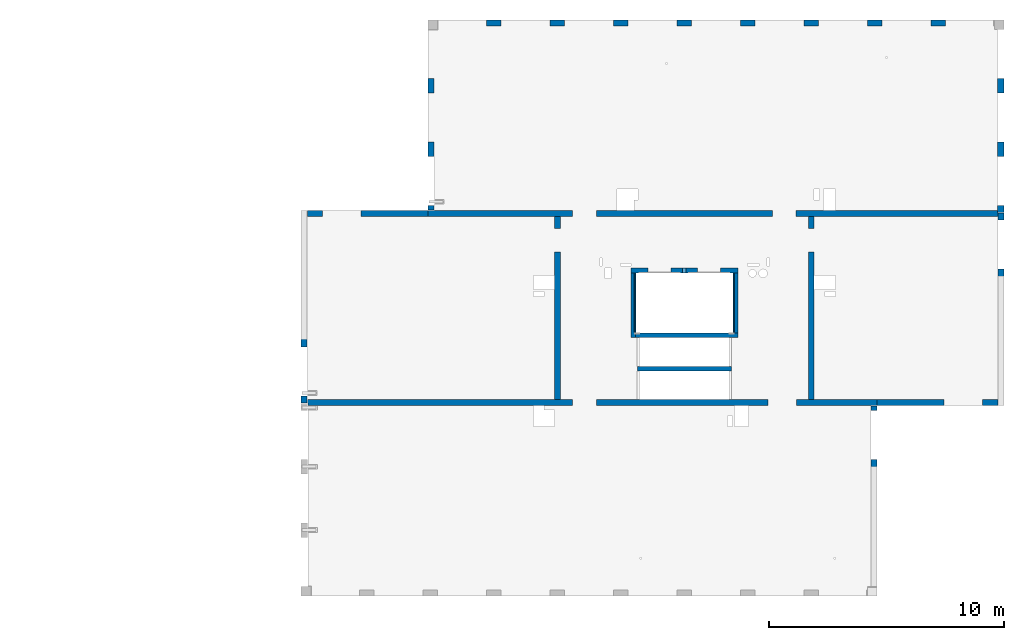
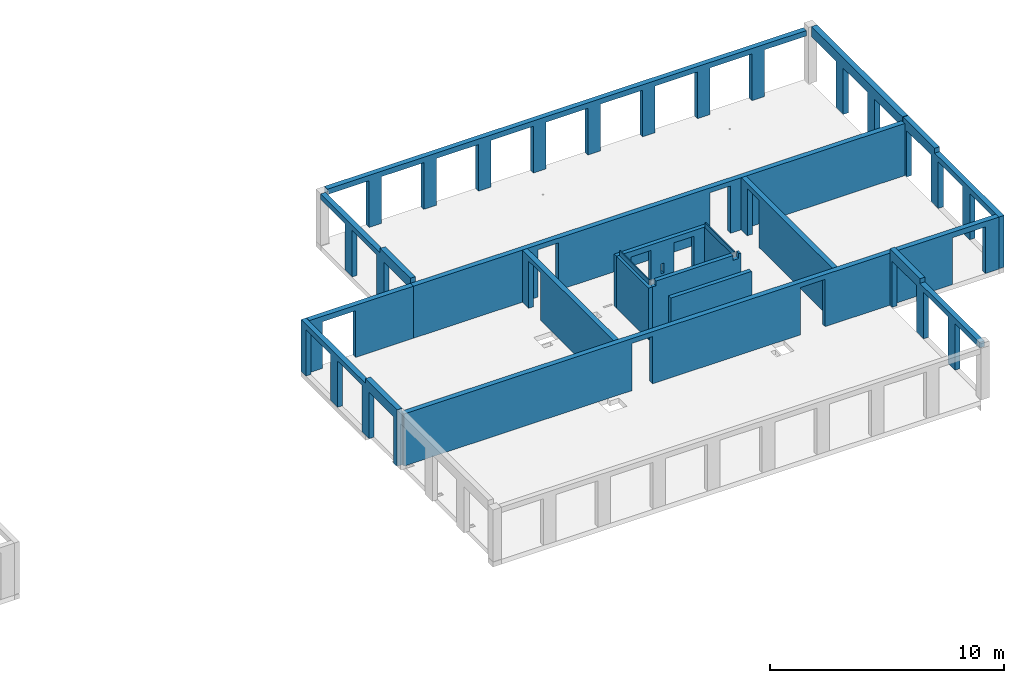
# One storey, part 4 of 8: 19 walls, 42 openings.
"""IFC2X3 building model written with IfcOpenShell, lengths in millimetres."""

import ifcopenshell
import ifcopenshell.guid

model = None  # the IFC model being written
_history = None  # IfcOwnerHistory: only IFC2X3 demands one
_inside = {}  # id of a spatial element -> (the spatial element, [elements in it])
_under = {}  # id of a project, library or spatial element -> (it, [spatial elements below it])
_declared = {}  # id of a project -> (the project, [libraries it declares])
_typed = {}  # id of a type object -> (the type object, [elements of that type])
_made_of = {}  # id of a material, layer set ... -> (it, [elements and type objects made of it])


def new_model(schema):
    """Start an empty IFC model of exactly this schema.

    Asked for "IFC4X3", IfcOpenShell would pick the latest addendum, in which some entities
    have other attributes; the version numbers below select the first issue.
    IFC2X3 requires an IfcOwnerHistory on every rooted entity: one is made here for all.
    """
    global model, _history
    if schema == "IFC4X3":
        model = ifcopenshell.file(schema_version=(4, 3, 0, 0))
    else:
        model = ifcopenshell.file(schema=schema)
    _inside.clear()
    _under.clear()
    _declared.clear()
    _typed.clear()
    _made_of.clear()
    _history = None
    if model.schema == "IFC2X3":
        org = make("IfcOrganization", Name="unknown")
        user = make(
            "IfcPersonAndOrganization",
            ThePerson=make("IfcPerson", FamilyName="unknown"),
            TheOrganization=org,
        )
        app = make(
            "IfcApplication",
            ApplicationDeveloper=org,
            Version="unknown",
            ApplicationFullName="unknown",
            ApplicationIdentifier="unknown",
        )
        _history = make(
            "IfcOwnerHistory",
            OwningUser=user,
            OwningApplication=app,
            ChangeAction="ADDED",
            CreationDate=0,
        )
    return model


def make(cls, **values):
    """One entity of the class cls with the attributes given. An attribute that is None is left unset."""
    return model.create_entity(
        cls, **{name: value for name, value in values.items() if value is not None}
    )


def entity(cls, *values):
    """Any entity or typed value of the class cls, its attributes in the order of the schema. None: left unset."""
    e = model.create_entity(cls)
    for i, value in enumerate(values):
        if value is not None:
            e[i] = value
    return e


def rooted(cls, **values):
    """An entity with a GlobalId (a new one), such as an element, a storey or a relation."""
    return make(cls, GlobalId=ifcopenshell.guid.new(), OwnerHistory=_history, **values)


def si_unit(unit_type, name, prefix=None):
    """IfcSIUnit, for example si_unit("LENGTHUNIT", "METRE", prefix="MILLI")."""
    return make("IfcSIUnit", UnitType=unit_type, Prefix=prefix, Name=name)


def converted_unit(unit_type, name, factor, base, dimensions=None, offset=None):
    """IfcConversionBasedUnit, such as the inch: factor (a typed value) times the base unit."""
    return make(
        "IfcConversionBasedUnit"
        if offset is None
        else "IfcConversionBasedUnitWithOffset",
        ConversionOffset=offset,
        Dimensions=None
        if dimensions is None
        else entity("IfcDimensionalExponents", *dimensions),
        UnitType=unit_type,
        Name=name,
        ConversionFactor=make(
            "IfcMeasureWithUnit", ValueComponent=factor, UnitComponent=base
        ),
    )


def derived_unit(unit_type, elements):
    """IfcDerivedUnit: a product of units, each with its exponent."""
    return make(
        "IfcDerivedUnit",
        Elements=[
            make("IfcDerivedUnitElement", Unit=unit, Exponent=power)
            for unit, power in elements
        ],
        UnitType=unit_type,
    )


def assignment(units):
    """IfcUnitAssignment: the units of a project."""
    return None if units is None else make("IfcUnitAssignment", Units=units)


def point(xyz):
    """IfcCartesianPoint."""
    return None if xyz is None else make("IfcCartesianPoint", Coordinates=xyz)


def direction(xyz):
    """IfcDirection."""
    return None if xyz is None else make("IfcDirection", DirectionRatios=xyz)


def frame(location, z_axis=None, x_axis=None):
    """IfcAxis2Placement3D, a coordinate frame: its origin and axes. An axis left out is left unset."""
    return make(
        "IfcAxis2Placement3D",
        Location=point(location),
        Axis=direction(z_axis),
        RefDirection=direction(x_axis),
    )


def frame_2d(location, x_axis=None):
    """IfcAxis2Placement2D, a coordinate frame in the plane: its origin and x axis."""
    return make(
        "IfcAxis2Placement2D", Location=point(location), RefDirection=direction(x_axis)
    )


def origin():
    """The frame at (0, 0, 0) with its axes left unset."""
    return frame((0.0, 0.0, 0.0))


def place(relative_to, where):
    """IfcLocalPlacement: puts the frame where relative to a parent placement (None: the world)."""
    return make(
        "IfcLocalPlacement", PlacementRelTo=relative_to, RelativePlacement=where
    )


def context(
    kind, dimensions, precision=None, world=None, true_north=None, identifier=None
):
    """IfcGeometricRepresentationContext, for example the 3D "Model" context."""
    return make(
        "IfcGeometricRepresentationContext",
        ContextIdentifier=identifier,
        ContextType=kind,
        CoordinateSpaceDimension=dimensions,
        Precision=precision,
        WorldCoordinateSystem=world,
        TrueNorth=true_north,
    )


def subcontext(parent, identifier, kind, view, scale=None):
    """IfcGeometricRepresentationSubContext, for example "Body" below "Model"."""
    return make(
        "IfcGeometricRepresentationSubContext",
        ContextIdentifier=identifier,
        ContextType=kind,
        ParentContext=parent,
        TargetScale=scale,
        TargetView=view,
    )


def project(units=None, contexts=None):
    """IfcProject with its units and contexts."""
    return rooted(
        "IfcProject",
        Name="project",
        RepresentationContexts=contexts,
        UnitsInContext=assignment(units),
    )


def spatial(cls, under=None, at=None, **own):
    """A site, building, storey or space (cls), placed at a placement, below another one or the project."""
    s = rooted(cls, ObjectPlacement=at, **own)
    if under is not None:
        _under.setdefault(under.id(), (under, []))[1].append(s)
    return s


def profile(cls, at=None, kind="AREA", **sizes):
    """A parametric profile (cls). Its sizes go by their IFC names, for example OverallWidth=200.0."""
    return make(cls, ProfileType=kind, Position=at, **sizes)


def rectangle(**sizes):
    """IfcRectangleProfileDef."""
    return profile("IfcRectangleProfileDef", **sizes)


def extrude(swept, where, along, depth):
    """IfcExtrudedAreaSolid: the profile swept, set in the frame where, extruded along a direction by depth."""
    return make(
        "IfcExtrudedAreaSolid",
        SweptArea=swept,
        Position=where,
        ExtrudedDirection=direction(along),
        Depth=depth,
    )


def shape(context_of_items, identifier, shape_type, items):
    """IfcShapeRepresentation: the items that make up one representation, for example the "Body"."""
    return make(
        "IfcShapeRepresentation",
        ContextOfItems=context_of_items,
        RepresentationIdentifier=identifier,
        RepresentationType=shape_type,
        Items=items,
    )


def material(Name=None, Category=None):
    """IfcMaterial."""
    return make("IfcMaterial", Name=Name, Category=Category)


def layer(
    of_material, thickness, ventilated=None, Name=None, Category=None, Priority=None
):
    """IfcMaterialLayer: one layer of a wall or slab, of a material (None: an air gap)."""
    return make(
        "IfcMaterialLayer",
        Material=of_material,
        LayerThickness=thickness,
        IsVentilated=ventilated,
        Name=Name,
        Category=Category,
        Priority=Priority,
    )


def layer_set(layers, Name=None):
    """IfcMaterialLayerSet."""
    return make("IfcMaterialLayerSet", MaterialLayers=layers, LayerSetName=Name)


def layer_usage(for_layer_set, set_direction, sense, offset, extent=None):
    """IfcMaterialLayerSetUsage: how a layer set lies in its element."""
    return make(
        "IfcMaterialLayerSetUsage",
        ForLayerSet=for_layer_set,
        LayerSetDirection=set_direction,
        DirectionSense=sense,
        OffsetFromReferenceLine=offset,
        ReferenceExtent=extent,
    )


def made_of(thing, what):
    """Note that an element or type object is made of a material, layer set ...; save() writes the relation."""
    if what is not None:
        _made_of.setdefault(what.id(), (what, []))[1].append(thing)
    return thing


def type_object(cls, material=None, **own):
    """A type object (cls), such as IfcWallType, which elements share."""
    return made_of(rooted(cls, **own), material)


def element(
    cls,
    number,
    at=None,
    inside=None,
    cuts=None,
    type_object=None,
    material=None,
    context=None,
    identifier="Body",
    shape_type=None,
    held_by="IfcProductDefinitionShape",
    body=None,
    shapes=None,
    **own,
):
    """One element of the class cls, such as IfcWall. Its Tag is "e" and its number.

    at: its placement. inside: the storey or other place that contains it. cuts: it is an
    opening in that element (IfcRelVoidsElement). A single representation is given by context,
    identifier, shape_type and body (its items); several are given by shapes. held_by: the class
    of the entity that holds the representations. save() writes the other relations.
    """
    e = rooted(cls, Tag="e%d" % number, ObjectPlacement=at, **own)
    if body is not None:
        shapes = [shape(context, identifier, shape_type, body)]
    if shapes is not None:
        e.Representation = make(held_by, Representations=shapes)
    if inside is not None:
        _inside.setdefault(inside.id(), (inside, []))[1].append(e)
    if cuts is not None:
        rooted(
            "IfcRelVoidsElement", RelatingBuildingElement=cuts, RelatedOpeningElement=e
        )
    if type_object is not None:
        _typed.setdefault(type_object.id(), (type_object, []))[1].append(e)
    return made_of(e, material)


def aggregate(whole, parts):
    """IfcRelAggregates: a whole, such as a stair, and the parts it consists of."""
    return rooted("IfcRelAggregates", RelatingObject=whole, RelatedObjects=parts)


def save(model, path):
    """Write the relations noted so far, then the file.

    IfcRelAggregates (storeys below a building ...), IfcRelContainedInSpatialStructure (elements
    in a storey), IfcRelDefinesByType, IfcRelAssociatesMaterial and IfcRelDeclares: one each for
    every whole, place, type object, material and project.
    """
    for whole, parts in _under.values():
        aggregate(whole, parts)
    for where, things in _inside.values():
        rooted(
            "IfcRelContainedInSpatialStructure",
            RelatedElements=things,
            RelatingStructure=where,
        )
    for kind, things in _typed.values():
        rooted("IfcRelDefinesByType", RelatedObjects=things, RelatingType=kind)
    for what, things in _made_of.values():
        rooted("IfcRelAssociatesMaterial", RelatedObjects=things, RelatingMaterial=what)
    for by, libraries in _declared.values():
        rooted("IfcRelDeclares", RelatingContext=by, RelatedDefinitions=libraries)
    model.write(path)


model = new_model("IFC2X3")

# Units and contexts
model_context = context("Model", 3, precision=0.01, world=origin(), true_north=direction((6.12303176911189e-17, 1.0)))
body_context = subcontext(model_context, "Body", "Model", "MODEL_VIEW")
ifc_project = project(units=[si_unit("LENGTHUNIT", "METRE", prefix="MILLI"), si_unit("AREAUNIT", "SQUARE_METRE"), si_unit("VOLUMEUNIT", "CUBIC_METRE"), converted_unit("PLANEANGLEUNIT", "DEGREE", entity("IfcRatioMeasure", 0.0174532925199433), si_unit("PLANEANGLEUNIT", "RADIAN"), dimensions=[0, 0, 0, 0, 0, 0, 0]), si_unit("MASSUNIT", "GRAM", prefix="KILO"), derived_unit("MASSDENSITYUNIT", [(si_unit("MASSUNIT", "GRAM", prefix="KILO"), 1), (si_unit("LENGTHUNIT", "METRE"), -3)]), si_unit("TIMEUNIT", "SECOND"), si_unit("FREQUENCYUNIT", "HERTZ"), si_unit("THERMODYNAMICTEMPERATUREUNIT", "DEGREE_CELSIUS"), derived_unit("THERMALTRANSMITTANCEUNIT", [(si_unit("MASSUNIT", "GRAM", prefix="KILO"), 1), (si_unit("THERMODYNAMICTEMPERATUREUNIT", "KELVIN"), -1), (si_unit("TIMEUNIT", "SECOND"), -3)]), derived_unit("VOLUMETRICFLOWRATEUNIT", [(si_unit("LENGTHUNIT", "METRE"), 3), (si_unit("TIMEUNIT", "SECOND"), -1)]), si_unit("ELECTRICCURRENTUNIT", "AMPERE"), si_unit("ELECTRICVOLTAGEUNIT", "VOLT"), si_unit("POWERUNIT", "WATT"), si_unit("FORCEUNIT", "NEWTON", prefix="KILO"), si_unit("ILLUMINANCEUNIT", "LUX"), si_unit("LUMINOUSFLUXUNIT", "LUMEN"), si_unit("LUMINOUSINTENSITYUNIT", "CANDELA"), derived_unit("USERDEFINED", [(si_unit("MASSUNIT", "GRAM", prefix="KILO"), -1), (si_unit("LENGTHUNIT", "METRE"), -2), (si_unit("TIMEUNIT", "SECOND"), 3), (si_unit("LUMINOUSFLUXUNIT", "LUMEN"), 1)]), derived_unit("LINEARVELOCITYUNIT", [(si_unit("LENGTHUNIT", "METRE"), 1), (si_unit("TIMEUNIT", "SECOND"), -1)]), si_unit("PRESSUREUNIT", "PASCAL"), derived_unit("USERDEFINED", [(si_unit("LENGTHUNIT", "METRE"), -2), (si_unit("MASSUNIT", "GRAM", prefix="KILO"), 1), (si_unit("TIMEUNIT", "SECOND"), -2)])], contexts=[model_context])

# Site, building, storey
site_placement = place(None, origin())
site = spatial("IfcSite", under=ifc_project, at=site_placement, Name="Default", CompositionType="ELEMENT")
building_placement = place(site_placement, origin())
building = spatial("IfcBuilding", under=site, at=building_placement, Name="niet gebruiken", CompositionType="ELEMENT")
storey_placement = place(building_placement, frame((0.0, 0.0, 42300.0)))
storey = spatial("IfcBuildingStorey", under=building, at=storey_placement, Name="14 veertiende verdieping", CompositionType="ELEMENT", Elevation=42300.0)

# Wall, openings
ifc_material_1 = material(Name="NLRS_f2_beton ihwg")
ifc_layer_1 = layer(ifc_material_1, 250.0)
ifc_layer_set_1 = layer_set([ifc_layer_1], Name="Basic Wall:NLRS_22.21_WA_beton ihwg d=250_gen")
ifc_layer_usage_1 = layer_usage(ifc_layer_set_1, "AXIS2", "NEGATIVE", 125.0)
wall_type_1 = type_object("IfcWallType", Name="Basic Wall:NLRS_22.21_WA_beton ihwg d=250_gen", PredefinedType="STANDARD", material=ifc_layer_set_1)
wall_1_placement = place(storey_placement, frame((75770.0, 36981.0, -90.0)))
wall_1 = element("IfcWallStandardCase", 1, at=wall_1_placement, inside=storey, type_object=wall_type_1, material=ifc_layer_usage_1, Name="Basic Wall:NLRS_22.21_WA_beton ihwg d=250_gen", ObjectType="Basic Wall:NLRS_22.21_WA_beton ihwg d=250_gen", context=body_context, shape_type="SweptSolid", body=[
    extrude(rectangle(XDim=24230.0000000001, YDim=250.000000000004, at=frame_2d((12115.0, 0.0), x_axis=(-1.0, 0.0))), origin(), (0.0, 0.0, 1.0), 2719.99999999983),
])
opening_1_placement = place(wall_1_placement, origin())
element("IfcOpeningElement", 2, at=opening_1_placement, cuts=wall_1, Name="Basic Wall:NLRS_22.21_WA_beton ihwg d=250_gen", ObjectType="Opening", context=body_context, shape_type="SweptSolid", body=[
    extrude(rectangle(XDim=2470.0, YDim=1225.0, at=frame_2d((-8.69704308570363e-12, -4.43378667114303e-12), x_axis=(0.0, 1.0))), frame((20192.5000000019, -1399.0, 1235.0), z_axis=(0.0, 1.0, 0.0), x_axis=(-1.0, 0.0, 0.0)), (0.0, 0.0, 1.0), 3048.0),
])
opening_2_placement = place(wall_1_placement, origin())
element("IfcOpeningElement", 3, at=opening_2_placement, cuts=wall_1, Name="Basic Wall:NLRS_22.21_WA_beton ihwg d=250_gen", ObjectType="Opening", context=body_context, shape_type="SweptSolid", body=[
    extrude(rectangle(XDim=2470.0, YDim=1006.0, at=frame_2d((8.66862137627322e-12, 4.43378667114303e-12), x_axis=(0.0, 1.0))), frame((11782.0, -1399.0, 1235.0), z_axis=(0.0, 1.0, 0.0), x_axis=(-1.0, 0.0, 0.0)), (0.0, 0.0, 1.0), 3048.0),
])
opening_3_placement = place(wall_1_placement, origin())
element("IfcOpeningElement", 4, at=opening_3_placement, cuts=wall_1, Name="Basic Wall:NLRS_22.21_WA_beton ihwg d=250_gen", ObjectType="Recess", context=body_context, shape_type="SweptSolid", body=[
    extrude(rectangle(XDim=55000.0, YDim=19.9999999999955, at=frame_2d((0.0, 4.33164615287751e-12), x_axis=(1.0, 0.0))), frame((10.0, -140.0, -2200.0), z_axis=(0.0, 1.0, 0.0), x_axis=(0.0, 0.0, -1.0)), (0.0, 0.0, 1.0), 124.999999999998),
])

# Wall, opening
ifc_layer_usage_2 = layer_usage(ifc_layer_set_1, "AXIS2", "NEGATIVE", 125.0)
wall_2_placement = place(storey_placement, frame((75770.0, 45031.0, -90.0)))
wall_2 = element("IfcWallStandardCase", 5, at=wall_2_placement, inside=storey, type_object=wall_type_1, material=ifc_layer_usage_2, Name="Basic Wall:NLRS_22.21_WA_beton ihwg d=250_gen", ObjectType="Basic Wall:NLRS_22.21_WA_beton ihwg d=250_gen", context=body_context, shape_type="SweptSolid", body=[
    extrude(rectangle(XDim=5130.0, YDim=249.999999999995, at=frame_2d((2565.0, 0.0), x_axis=(-1.0, 0.0))), origin(), (0.0, 0.0, 1.0), 2719.99999999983),
])
opening_4_placement = place(wall_2_placement, origin())
element("IfcOpeningElement", 6, at=opening_4_placement, cuts=wall_2, Name="Basic Wall:NLRS_22.21_WA_beton ihwg d=250_gen", ObjectType="Opening", context=body_context, shape_type="SweptSolid", body=[
    extrude(rectangle(XDim=2440.0, YDim=1640.0, at=frame_2d((0.0, 4.37694325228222e-12), x_axis=(1.0, 0.0))), frame((1460.0, -1649.0, 1220.0), z_axis=(0.0, 1.0, 0.0), x_axis=(0.0, 0.0, 1.0)), (0.0, 0.0, 1.0), 3048.0),
])

ifc_layer_usage_3 = layer_usage(ifc_layer_set_1, "AXIS2", "NEGATIVE", 125.0)
wall_3_placement = place(storey_placement, frame((86400.0, 44906.0, -90.0), z_axis=(0.0, 0.0, 1.0), x_axis=(0.0, -1.0, 0.0)))
wall_3 = element("IfcWallStandardCase", 7, at=wall_3_placement, inside=storey, type_object=wall_type_1, material=ifc_layer_usage_3, Name="Basic Wall:NLRS_22.21_WA_beton ihwg d=250_gen", ObjectType="Basic Wall:NLRS_22.21_WA_beton ihwg d=250_gen", context=body_context, shape_type="SweptSolid", body=[
    extrude(rectangle(XDim=7799.99999999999, YDim=250.000000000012, at=frame_2d((3900.0, 0.0), x_axis=(-1.0, 0.0))), origin(), (0.0, 0.0, 1.0), 2719.99999999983),
])
opening_5_placement = place(wall_3_placement, origin())
element("IfcOpeningElement", 8, at=opening_5_placement, cuts=wall_3, Name="Basic Wall:NLRS_22.21_WA_beton ihwg d=250_gen", ObjectType="Opening", context=body_context, shape_type="SweptSolid", body=[
    extrude(rectangle(XDim=2470.0, YDim=1006.0, at=frame_2d((-4.43378667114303e-12, 0.0), x_axis=(1.0, 0.0))), frame((1027.0, -1649.0, 1235.0), z_axis=(0.0, 1.0, 0.0), x_axis=(0.0, 0.0, 1.0)), (0.0, 0.0, 1.0), 3048.0),
])

ifc_layer_usage_4 = layer_usage(ifc_layer_set_1, "AXIS2", "NEGATIVE", 125.0)
wall_4_placement = place(storey_placement, frame((97200.0, 44906.0, -90.0), z_axis=(0.0, 0.0, 1.0), x_axis=(0.0, -1.0, 0.0)))
wall_4 = element("IfcWallStandardCase", 9, at=wall_4_placement, inside=storey, type_object=wall_type_1, material=ifc_layer_usage_4, Name="Basic Wall:NLRS_22.21_WA_beton ihwg d=250_gen", ObjectType="Basic Wall:NLRS_22.21_WA_beton ihwg d=250_gen", context=body_context, shape_type="SweptSolid", body=[
    extrude(rectangle(XDim=7799.99999999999, YDim=250.000000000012, at=frame_2d((3900.0, 0.0), x_axis=(-1.0, 0.0))), origin(), (0.0, 0.0, 1.0), 2719.99999999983),
])
opening_6_placement = place(wall_4_placement, origin())
element("IfcOpeningElement", 10, at=opening_6_placement, cuts=wall_4, Name="Basic Wall:NLRS_22.21_WA_beton ihwg d=250_gen", ObjectType="Opening", context=body_context, shape_type="SweptSolid", body=[
    extrude(rectangle(XDim=2470.0, YDim=1006.0, at=frame_2d((4.43378667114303e-12, 0.0), x_axis=(1.0, 0.0))), frame((1027.0, -1649.0, 1235.0), z_axis=(0.0, 1.0, 0.0), x_axis=(0.0, 0.0, 1.0)), (0.0, 0.0, 1.0), 3048.0),
])

# Wall, openings
ifc_layer_usage_5 = layer_usage(ifc_layer_set_1, "AXIS2", "NEGATIVE", 125.0)
wall_5_placement = place(storey_placement, frame((80900.0, 45031.0, -90.0)))
wall_5 = element("IfcWallStandardCase", 11, at=wall_5_placement, inside=storey, type_object=wall_type_1, material=ifc_layer_usage_5, Name="Basic Wall:NLRS_22.21_WA_beton ihwg d=250_gen", ObjectType="Basic Wall:NLRS_22.21_WA_beton ihwg d=250_gen", context=body_context, shape_type="SweptSolid", body=[
    extrude(rectangle(XDim=24250.0, YDim=249.999999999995, at=frame_2d((12125.0, 0.0), x_axis=(-1.0, 0.0))), origin(), (0.0, 0.0, 1.0), 2719.99999999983),
])
opening_7_placement = place(wall_5_placement, origin())
element("IfcOpeningElement", 12, at=opening_7_placement, cuts=wall_5, Name="Basic Wall:NLRS_22.21_WA_beton ihwg d=250_gen", ObjectType="Opening", context=body_context, shape_type="SweptSolid", body=[
    extrude(rectangle(XDim=2470.0, YDim=1006.0, at=frame_2d((4.43378667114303e-12, 8.66862137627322e-12), x_axis=(1.0, 0.0))), frame((15148.0, -1649.0, 1235.0), z_axis=(0.0, 1.0, 0.0), x_axis=(0.0, 0.0, 1.0)), (0.0, 0.0, 1.0), 3048.0),
])
opening_8_placement = place(wall_5_placement, origin())
element("IfcOpeningElement", 13, at=opening_8_placement, cuts=wall_5, Name="Basic Wall:NLRS_22.21_WA_beton ihwg d=250_gen", ObjectType="Opening", context=body_context, shape_type="SweptSolid", body=[
    extrude(rectangle(XDim=2470.0, YDim=1006.0, at=frame_2d((-4.43378667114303e-12, 8.66862137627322e-12), x_axis=(1.0, 0.0))), frame((6652.0, -1649.0, 1235.0), z_axis=(0.0, 1.0, 0.0), x_axis=(0.0, 0.0, 1.0)), (0.0, 0.0, 1.0), 3048.0),
])

# Wall, opening
ifc_layer_usage_6 = layer_usage(ifc_layer_set_1, "AXIS2", "NEGATIVE", 125.0)
wall_6_placement = place(storey_placement, frame((100000.0, 36981.0, -90.0)))
wall_6 = element("IfcWallStandardCase", 14, at=wall_6_placement, inside=storey, type_object=wall_type_1, material=ifc_layer_usage_6, Name="Basic Wall:NLRS_22.21_WA_beton ihwg d=250_gen", ObjectType="Basic Wall:NLRS_22.21_WA_beton ihwg d=250_gen", context=body_context, shape_type="SweptSolid", body=[
    extrude(rectangle(XDim=5149.99999999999, YDim=250.000000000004, at=frame_2d((2575.0, 0.0), x_axis=(-1.0, 0.0))), origin(), (0.0, 0.0, 1.0), 2719.99999999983),
])
opening_9_placement = place(wall_6_placement, origin())
element("IfcOpeningElement", 15, at=opening_9_placement, cuts=wall_6, Name="Basic Wall:NLRS_22.21_WA_beton ihwg d=250_gen", ObjectType="Opening", context=body_context, shape_type="SweptSolid", body=[
    extrude(rectangle(XDim=2440.0, YDim=1639.99999999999, at=frame_2d((-8.69704308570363e-12, 0.0), x_axis=(0.0, 1.0))), frame((3670.0, -1399.0, 1220.0), z_axis=(0.0, 1.0, 0.0), x_axis=(-1.0, 0.0, 0.0)), (0.0, 0.0, 1.0), 3048.0),
])

# Wall, openings
ifc_material_2 = material(Name="NLRS_f2_beton prefab")
ifc_layer_2 = layer(ifc_material_2, 250.0)
ifc_layer_set_2 = layer_set([ifc_layer_2], Name="Basic Wall:NLRS_21.21_WA_beton prefab d=250_gen")
ifc_layer_usage_7 = layer_usage(ifc_layer_set_2, "AXIS2", "NEGATIVE", 125.0)
wall_type_2 = type_object("IfcWallType", Name="Basic Wall:NLRS_21.21_WA_beton prefab d=250_gen", PredefinedType="STANDARD", material=ifc_layer_set_2)
wall_7_placement = place(storey_placement, frame((75625.0, 45156.0, -70.0), z_axis=(0.0, 0.0, 1.0), x_axis=(0.0, -1.0, 0.0)))
wall_7 = element("IfcWallStandardCase", 16, at=wall_7_placement, inside=storey, type_object=wall_type_2, material=ifc_layer_usage_7, Name="Basic Wall:NLRS_21.21_WA_beton prefab d=250_gen", ObjectType="Basic Wall:NLRS_21.21_WA_beton prefab d=250_gen", context=body_context, shape_type="SweptSolid", body=[
    extrude(rectangle(XDim=8189.99999999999, YDim=249.999999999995, at=frame_2d((4095.0, 0.0), x_axis=(-1.0, 0.0))), origin(), (0.0, 0.0, 1.0), 2949.99999999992),
])
opening_10_placement = place(wall_7_placement, origin())
element("IfcOpeningElement", 17, at=opening_10_placement, cuts=wall_7, Name="Basic Wall:NLRS_21.21_WA_beton prefab d=250_gen", ObjectType="Opening", context=body_context, shape_type="SweptSolid", body=[
    extrude(rectangle(XDim=2420.0, YDim=2080.0, at=frame_2d((0.0, 0.0), x_axis=(0.0, 1.0))), frame((1450.0, -1399.0, 1210.0), z_axis=(0.0, 1.0, 0.0), x_axis=(-1.0, 0.0, 0.0)), (0.0, 0.0, 1.0), 3048.0),
])
opening_11_placement = place(wall_7_placement, origin())
element("IfcOpeningElement", 18, at=opening_11_placement, cuts=wall_7, Name="Basic Wall:NLRS_21.21_WA_beton prefab d=250_gen", ObjectType="Opening", context=body_context, shape_type="SweptSolid", body=[
    extrude(rectangle(XDim=2420.0, YDim=2080.0, at=frame_2d((0.0, 0.0), x_axis=(0.0, 1.0))), frame((4150.0, -1399.0, 1210.0), z_axis=(0.0, 1.0, 0.0), x_axis=(-1.0, 0.0, 0.0)), (0.0, 0.0, 1.0), 3048.0),
])
opening_12_placement = place(wall_7_placement, origin())
element("IfcOpeningElement", 19, at=opening_12_placement, cuts=wall_7, Name="Basic Wall:NLRS_21.21_WA_beton prefab d=250_gen", ObjectType="Opening", context=body_context, shape_type="SweptSolid", body=[
    extrude(rectangle(XDim=2420.0, YDim=2080.0, at=frame_2d((0.0, 0.0), x_axis=(0.0, 1.0))), frame((6850.0, -1399.0, 1210.0), z_axis=(0.0, 1.0, 0.0), x_axis=(-1.0, 0.0, 0.0)), (0.0, 0.0, 1.0), 3048.0),
])
opening_13_placement = place(wall_7_placement, origin())
element("IfcOpeningElement", 20, at=opening_13_placement, cuts=wall_7, Name="Basic Wall:NLRS_21.21_WA_beton prefab d=250_gen", ObjectType="Opening", context=body_context, shape_type="SweptSolid", body=[
    extrude(rectangle(XDim=250.000000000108, YDim=5499.99999999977, at=frame_2d((0.0, 4.32720526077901e-12), x_axis=(0.0, 1.0))), frame((2750.0, 125.0, 2825.0), z_axis=(0.0, -1.0, 0.0), x_axis=(-1.0, 0.0, 0.0)), (0.0, 0.0, 1.0), 250.0),
])

ifc_layer_usage_8 = layer_usage(ifc_layer_set_2, "AXIS2", "NEGATIVE", 125.0)
wall_8_placement = place(storey_placement, frame((81025.0, 52846.0, -70.0), z_axis=(0.0, 0.0, 1.0), x_axis=(0.0, -1.0, 0.0)))
wall_8 = element("IfcWallStandardCase", 21, at=wall_8_placement, inside=storey, type_object=wall_type_2, material=ifc_layer_usage_8, Name="Basic Wall:NLRS_21.21_WA_beton prefab d=250_gen", ObjectType="Basic Wall:NLRS_21.21_WA_beton prefab d=250_gen", context=body_context, shape_type="SweptSolid", body=[
    extrude(rectangle(XDim=7670.00000000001, YDim=250.000000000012, at=frame_2d((3835.0, 0.0), x_axis=(-1.0, 0.0))), origin(), (0.0, 0.0, 1.0), 2949.99999999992),
])
opening_14_placement = place(wall_8_placement, origin())
element("IfcOpeningElement", 22, at=opening_14_placement, cuts=wall_8, Name="Basic Wall:NLRS_21.21_WA_beton prefab d=250_gen", ObjectType="Opening", context=body_context, shape_type="SweptSolid", body=[
    extrude(rectangle(XDim=2420.0, YDim=2080.0, at=frame_2d((0.0, 0.0), x_axis=(0.0, 1.0))), frame((1040.0, -1399.0, 1210.0), z_axis=(0.0, 1.0, 0.0), x_axis=(-1.0, 0.0, 0.0)), (0.0, 0.0, 1.0), 3048.0),
])
opening_15_placement = place(wall_8_placement, origin())
element("IfcOpeningElement", 23, at=opening_15_placement, cuts=wall_8, Name="Basic Wall:NLRS_21.21_WA_beton prefab d=250_gen", ObjectType="Opening", context=body_context, shape_type="SweptSolid", body=[
    extrude(rectangle(XDim=2420.0, YDim=2080.0, at=frame_2d((0.0, 0.0), x_axis=(0.0, 1.0))), frame((3740.0, -1399.0, 1210.0), z_axis=(0.0, 1.0, 0.0), x_axis=(-1.0, 0.0, 0.0)), (0.0, 0.0, 1.0), 3048.0),
])
opening_16_placement = place(wall_8_placement, origin())
element("IfcOpeningElement", 24, at=opening_16_placement, cuts=wall_8, Name="Basic Wall:NLRS_21.21_WA_beton prefab d=250_gen", ObjectType="Opening", context=body_context, shape_type="SweptSolid", body=[
    extrude(rectangle(XDim=2420.0, YDim=2080.0, at=frame_2d((0.0, 0.0), x_axis=(0.0, 1.0))), frame((6440.0, -1399.0, 1210.0), z_axis=(0.0, 1.0, 0.0), x_axis=(-1.0, 0.0, 0.0)), (0.0, 0.0, 1.0), 3048.0),
])
opening_17_placement = place(wall_8_placement, origin())
element("IfcOpeningElement", 25, at=opening_17_placement, cuts=wall_8, Name="Basic Wall:NLRS_21.21_WA_beton prefab d=250_gen", ObjectType="Opening", context=body_context, shape_type="SweptSolid", body=[
    extrude(rectangle(XDim=250.000000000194, YDim=5089.99999999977, at=frame_2d((4.32009983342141e-12, -4.32720526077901e-12), x_axis=(0.0, 1.0))), frame((2545.0, 125.0, 2825.0), z_axis=(0.0, -1.0, 0.0), x_axis=(-1.0, 0.0, 0.0)), (0.0, 0.0, 1.0), 250.0),
])

ifc_layer_usage_9 = layer_usage(ifc_layer_set_2, "AXIS2", "NEGATIVE", 125.0)
wall_9_placement = place(storey_placement, frame((105275.0, 45046.0, -70.0), z_axis=(0.0, 0.0, 1.0), x_axis=(0.0, -1.0, 0.0)))
wall_9 = element("IfcWallStandardCase", 26, at=wall_9_placement, inside=storey, type_object=wall_type_2, material=ifc_layer_usage_9, Name="Basic Wall:NLRS_21.21_WA_beton prefab d=250_gen", ObjectType="Basic Wall:NLRS_21.21_WA_beton prefab d=250_gen", context=body_context, shape_type="SweptSolid", body=[
    extrude(rectangle(XDim=8189.99999999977, YDim=250.000000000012, at=frame_2d((4094.99999999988, 0.0), x_axis=(-1.0, 0.0))), origin(), (0.0, 0.0, 1.0), 2949.99999999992),
])
opening_18_placement = place(wall_9_placement, origin())
element("IfcOpeningElement", 27, at=opening_18_placement, cuts=wall_9, Name="Basic Wall:NLRS_21.21_WA_beton prefab d=250_gen", ObjectType="Opening", context=body_context, shape_type="SweptSolid", body=[
    extrude(rectangle(XDim=2420.0, YDim=2080.0, at=frame_2d((0.0, 0.0), x_axis=(0.0, 1.0))), frame((1340.0, -1399.0, 1210.0), z_axis=(0.0, 1.0, 0.0), x_axis=(-1.0, 0.0, 0.0)), (0.0, 0.0, 1.0), 3048.0),
])
opening_19_placement = place(wall_9_placement, origin())
element("IfcOpeningElement", 28, at=opening_19_placement, cuts=wall_9, Name="Basic Wall:NLRS_21.21_WA_beton prefab d=250_gen", ObjectType="Opening", context=body_context, shape_type="SweptSolid", body=[
    extrude(rectangle(XDim=2420.0, YDim=2080.0, at=frame_2d((0.0, 0.0), x_axis=(0.0, 1.0))), frame((4040.0, -1399.0, 1210.0), z_axis=(0.0, 1.0, 0.0), x_axis=(-1.0, 0.0, 0.0)), (0.0, 0.0, 1.0), 3048.0),
])
opening_20_placement = place(wall_9_placement, origin())
element("IfcOpeningElement", 29, at=opening_20_placement, cuts=wall_9, Name="Basic Wall:NLRS_21.21_WA_beton prefab d=250_gen", ObjectType="Opening", context=body_context, shape_type="SweptSolid", body=[
    extrude(rectangle(XDim=2420.0, YDim=2080.0, at=frame_2d((0.0, 0.0), x_axis=(0.0, 1.0))), frame((6740.0, -1399.0, 1210.0), z_axis=(0.0, 1.0, 0.0), x_axis=(-1.0, 0.0, 0.0)), (0.0, 0.0, 1.0), 3048.0),
])
opening_21_placement = place(wall_9_placement, origin())
element("IfcOpeningElement", 30, at=opening_21_placement, cuts=wall_9, Name="Basic Wall:NLRS_21.21_WA_beton prefab d=250_gen", ObjectType="Opening", context=body_context, shape_type="SweptSolid", body=[
    extrude(rectangle(XDim=249.999999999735, YDim=5500.0000000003, at=frame_2d((0.0, 4.32009983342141e-12), x_axis=(1.0, 0.0))), frame((5440.0, 125.0, 2825.0), z_axis=(0.0, -1.0, 0.0), x_axis=(0.0, 0.0, 1.0)), (0.0, 0.0, 1.0), 250.0),
])

ifc_layer_usage_10 = layer_usage(ifc_layer_set_2, "AXIS2", "NEGATIVE", 125.0)
wall_10_placement = place(storey_placement, frame((99875.0, 29166.0, -70.0), z_axis=(0.0, 0.0, 1.0), x_axis=(0.0, 1.0, 0.0)))
wall_10 = element("IfcWallStandardCase", 31, at=wall_10_placement, inside=storey, type_object=wall_type_2, material=ifc_layer_usage_10, Name="Basic Wall:NLRS_21.21_WA_beton prefab d=250_gen", ObjectType="Basic Wall:NLRS_21.21_WA_beton prefab d=250_gen", context=body_context, shape_type="SweptSolid", body=[
    extrude(rectangle(XDim=7669.99999999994, YDim=250.000000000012, at=frame_2d((3834.99999999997, 0.0), x_axis=(-1.0, 0.0))), origin(), (0.0, 0.0, 1.0), 2949.99999999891),
])
opening_22_placement = place(wall_10_placement, origin())
element("IfcOpeningElement", 32, at=opening_22_placement, cuts=wall_10, Name="Basic Wall:NLRS_21.21_WA_beton prefab d=250_gen", ObjectType="Opening", context=body_context, shape_type="SweptSolid", body=[
    extrude(rectangle(XDim=2420.0, YDim=2080.0, at=frame_2d((-2.1600499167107e-12, 0.0), x_axis=(0.0, 1.0))), frame((1040.0, -1399.0, 1210.0), z_axis=(0.0, 1.0, 0.0), x_axis=(-1.0, 0.0, 0.0)), (0.0, 0.0, 1.0), 3048.0),
])
opening_23_placement = place(wall_10_placement, origin())
element("IfcOpeningElement", 33, at=opening_23_placement, cuts=wall_10, Name="Basic Wall:NLRS_21.21_WA_beton prefab d=250_gen", ObjectType="Opening", context=body_context, shape_type="SweptSolid", body=[
    extrude(rectangle(XDim=2420.0, YDim=2080.0, at=frame_2d((2.1600499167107e-12, 0.0), x_axis=(0.0, 1.0))), frame((6440.0, -1399.0, 1210.0), z_axis=(0.0, 1.0, 0.0), x_axis=(-1.0, 0.0, 0.0)), (0.0, 0.0, 1.0), 3048.0),
])
opening_24_placement = place(wall_10_placement, origin())
element("IfcOpeningElement", 34, at=opening_24_placement, cuts=wall_10, Name="Basic Wall:NLRS_21.21_WA_beton prefab d=250_gen", ObjectType="Opening", context=body_context, shape_type="SweptSolid", body=[
    extrude(rectangle(XDim=2420.0, YDim=2080.0, at=frame_2d((2.1600499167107e-12, 0.0), x_axis=(0.0, 1.0))), frame((3740.0, -1399.0, 1210.0), z_axis=(0.0, 1.0, 0.0), x_axis=(-1.0, 0.0, 0.0)), (0.0, 0.0, 1.0), 3048.0),
])
opening_25_placement = place(wall_10_placement, origin())
element("IfcOpeningElement", 35, at=opening_25_placement, cuts=wall_10, Name="Basic Wall:NLRS_21.21_WA_beton prefab d=250_gen", ObjectType="Opening", context=body_context, shape_type="SweptSolid", body=[
    extrude(rectangle(XDim=249.999999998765, YDim=5090.00000000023, at=frame_2d((0.0, 0.0), x_axis=(0.0, 1.0))), frame((2545.0, 125.0, 2825.0), z_axis=(0.0, -1.0, 0.0), x_axis=(-1.0, 0.0, 0.0)), (0.0, 0.0, 1.0), 250.0),
])

# Wall
ifc_layer_3 = layer(ifc_material_2, 200.0)
ifc_layer_set_3 = layer_set([ifc_layer_3], Name="Basic Wall:NLRS_21.21_WA_beton prefab d=200_gen")
ifc_layer_usage_11 = layer_usage(ifc_layer_set_3, "AXIS2", "NEGATIVE", 100.0)
wall_type_3 = type_object("IfcWallType", Name="Basic Wall:NLRS_21.21_WA_beton prefab d=200_gen", PredefinedType="STANDARD", material=ifc_layer_set_3)
wall_11_placement = place(storey_placement, frame((89800.0, 38426.0, -70.0)))
element("IfcWallStandardCase", 36, at=wall_11_placement, inside=storey, type_object=wall_type_3, material=ifc_layer_usage_11, Name="Basic Wall:NLRS_21.21_WA_beton prefab d=200_gen", ObjectType="Basic Wall:NLRS_21.21_WA_beton prefab d=200_gen", context=body_context, shape_type="SweptSolid", body=[
    extrude(rectangle(XDim=3999.99999999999, YDim=199.999999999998, at=frame_2d((2000.0, 0.0), x_axis=(-1.0, 0.0))), origin(), (0.0, 0.0, 1.0), 2950.00000000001),
])

# Wall, openings
ifc_layer_4 = layer(ifc_material_2, 200.0)
ifc_layer_set_4 = layer_set([ifc_layer_4], Name="Basic Wall:NLRS_22.21_WA_beton prefab d=200_gen")
ifc_layer_usage_12 = layer_usage(ifc_layer_set_4, "AXIS2", "NEGATIVE", 100.0)
wall_type_4 = type_object("IfcWallType", Name="Basic Wall:NLRS_22.21_WA_beton prefab d=200_gen", PredefinedType="STANDARD", material=ifc_layer_set_4)
wall_12_placement = place(storey_placement, frame((89525.0, 42596.0, -70.0)))
wall_12 = element("IfcWallStandardCase", 37, at=wall_12_placement, inside=storey, type_object=wall_type_4, material=ifc_layer_usage_12, Name="Basic Wall:NLRS_22.21_WA_beton prefab d=200_gen", ObjectType="Basic Wall:NLRS_22.21_WA_beton prefab d=200_gen", context=body_context, shape_type="SweptSolid", body=[
    extrude(rectangle(XDim=4550.00000000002, YDim=200.000000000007, at=frame_2d((2275.00000000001, 7.8159700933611e-13), x_axis=(-1.0, 0.0))), origin(), (0.0, 0.0, 1.0), 2700.00000000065),
])
opening_26_placement = place(wall_12_placement, origin())
element("IfcOpeningElement", 38, at=opening_26_placement, cuts=wall_12, Name="Basic Wall:NLRS_22.21_WA_beton prefab d=200_gen", ObjectType="Opening", context=body_context, shape_type="SweptSolid", body=[
    extrude(rectangle(XDim=2430.0, YDim=980.000000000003, at=frame_2d((0.0, -8.66862137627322e-12), x_axis=(1.0, 0.0))), frame((1219.99984910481, -1624.0, 1195.0), z_axis=(0.0, 1.0, 0.0), x_axis=(0.0, 0.0, 1.0)), (0.0, 0.0, 1.0), 3048.0),
])
opening_27_placement = place(wall_12_placement, origin())
element("IfcOpeningElement", 39, at=opening_27_placement, cuts=wall_12, Name="Basic Wall:NLRS_22.21_WA_beton prefab d=200_gen", ObjectType="Opening", context=body_context, shape_type="SweptSolid", body=[
    extrude(rectangle(XDim=2430.0, YDim=980.000000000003, at=frame_2d((0.0, -8.66862137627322e-12), x_axis=(1.0, 0.0))), frame((3329.99984910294, -1624.0, 1195.0), z_axis=(0.0, 1.0, 0.0), x_axis=(0.0, 0.0, 1.0)), (0.0, 0.0, 1.0), 3048.0),
])
opening_28_placement = place(wall_12_placement, origin())
element("IfcOpeningElement", 40, at=opening_28_placement, cuts=wall_12, Name="Basic Wall:NLRS_22.21_WA_beton prefab d=200_gen", ObjectType="Opening", context=body_context, shape_type="SweptSolid", body=[
    extrude(rectangle(XDim=505.000000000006, YDim=135.000000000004, at=frame_2d((-4.33431068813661e-12, -8.66151594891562e-12), x_axis=(1.0, 0.0))), frame((2275.0, -1624.0, 1272.49999999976), z_axis=(0.0, 1.0, 0.0), x_axis=(0.0, 0.0, 1.0)), (0.0, 0.0, 1.0), 3048.0),
])

# Wall
ifc_layer_usage_13 = layer_usage(ifc_layer_set_4, "AXIS2", "NEGATIVE", 100.0)
wall_13_placement = place(storey_placement, frame((89625.0, 42496.0, -70.0), z_axis=(0.0, 0.0, 1.0), x_axis=(0.0, -1.0, 0.0)))
element("IfcWallStandardCase", 41, at=wall_13_placement, inside=storey, type_object=wall_type_4, material=ifc_layer_usage_13, Name="Basic Wall:NLRS_22.21_WA_beton prefab d=200_gen", ObjectType="Basic Wall:NLRS_22.21_WA_beton prefab d=200_gen", context=body_context, shape_type="SweptSolid", body=[
    extrude(rectangle(XDim=2749.99999999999, YDim=199.999999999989, at=frame_2d((1375.0, 0.0), x_axis=(-1.0, 0.0))), origin(), (0.0, 0.0, 1.0), 2699.99999999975),
])

# Wall, openings
ifc_layer_usage_14 = layer_usage(ifc_layer_set_4, "AXIS2", "NEGATIVE", 100.0)
wall_14_placement = place(storey_placement, frame((94075.0, 39846.0, -70.0), z_axis=(0.0, 0.0, 1.0), x_axis=(-1.0, 0.0, 0.0)))
wall_14 = element("IfcWallStandardCase", 42, at=wall_14_placement, inside=storey, type_object=wall_type_4, material=ifc_layer_usage_14, Name="Basic Wall:NLRS_22.21_WA_beton prefab d=200_gen", ObjectType="Basic Wall:NLRS_22.21_WA_beton prefab d=200_gen", context=body_context, shape_type="SweptSolid", body=[
    extrude(rectangle(XDim=4350.00000000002, YDim=200.000000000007, at=frame_2d((2175.00000000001, 0.0), x_axis=(-1.0, 0.0))), origin(), (0.0, 0.0, 1.0), 2949.99999999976),
])
opening_29_placement = place(wall_14_placement, origin())
element("IfcOpeningElement", 43, at=opening_29_placement, cuts=wall_14, Name="Basic Wall:NLRS_22.21_WA_beton prefab d=200_gen", ObjectType="Opening", context=body_context, shape_type="SweptSolid", body=[
    extrude(rectangle(XDim=249.999999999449, YDim=274.999967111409, at=frame_2d((-4.33431068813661e-12, 8.65441052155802e-12), x_axis=(1.0, 0.0))), frame((4312.50001644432, 100.0, 2825.0), z_axis=(0.0, -1.0, 0.0), x_axis=(0.0, 0.0, 1.0)), (0.0, 0.0, 1.0), 200.0),
])
opening_30_placement = place(wall_14_placement, origin())
element("IfcOpeningElement", 44, at=opening_30_placement, cuts=wall_14, Name="Basic Wall:NLRS_22.21_WA_beton prefab d=200_gen", ObjectType="Opening", context=body_context, shape_type="SweptSolid", body=[
    extrude(rectangle(XDim=249.999999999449, YDim=274.999967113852, at=frame_2d((0.0, 4.33431068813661e-12), x_axis=(0.0, 1.0))), frame((237.499983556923, 100.0, 2825.0), z_axis=(0.0, -1.0, 0.0), x_axis=(-1.0, 0.0, 0.0)), (0.0, 0.0, 1.0), 200.0),
])

# Wall
ifc_layer_usage_15 = layer_usage(ifc_layer_set_4, "AXIS2", "NEGATIVE", 100.0)
wall_15_placement = place(storey_placement, frame((93975.0, 39946.0, -70.0), z_axis=(0.0, 0.0, 1.0), x_axis=(0.0, 1.0, 0.0)))
element("IfcWallStandardCase", 45, at=wall_15_placement, inside=storey, type_object=wall_type_4, material=ifc_layer_usage_15, Name="Basic Wall:NLRS_22.21_WA_beton prefab d=200_gen", ObjectType="Basic Wall:NLRS_22.21_WA_beton prefab d=200_gen", context=body_context, shape_type="SweptSolid", body=[
    extrude(rectangle(XDim=2549.99999999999, YDim=199.999999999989, at=frame_2d((1275.0, 0.0), x_axis=(-1.0, 0.0))), origin(), (0.0, 0.0, 1.0), 2699.99999999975),
])

# Wall, openings
ifc_layer_5 = layer(ifc_material_1, 250.0)
ifc_layer_set_5 = layer_set([ifc_layer_5], Name="Basic Wall:NLRS_21.21_WA_beton ihwg d=250_gen")
ifc_layer_usage_16 = layer_usage(ifc_layer_set_5, "AXIS2", "NEGATIVE", 125.0)
wall_type_5 = type_object("IfcWallType", Name="Basic Wall:NLRS_21.21_WA_beton ihwg d=250_gen", PredefinedType="STANDARD", material=ifc_layer_set_5)
wall_16_placement = place(storey_placement, frame((104970.0, 53131.0, -90.0), z_axis=(0.0, 0.0, 1.0), x_axis=(-1.0, 0.0, 0.0)))
wall_16 = element("IfcWallStandardCase", 46, at=wall_16_placement, inside=storey, type_object=wall_type_5, material=ifc_layer_usage_16, Name="Basic Wall:NLRS_21.21_WA_beton ihwg d=250_gen", ObjectType="Basic Wall:NLRS_21.21_WA_beton ihwg d=250_gen", context=body_context, shape_type="SweptSolid", body=[
    extrude(rectangle(XDim=23640.0000000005, YDim=249.999999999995, at=frame_2d((11820.0000000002, 5.82645043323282e-13), x_axis=(-1.0, 0.0))), origin(), (0.0, 0.0, 1.0), 2720.00000000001),
])
opening_31_placement = place(wall_16_placement, origin())
element("IfcOpeningElement", 47, at=opening_31_placement, cuts=wall_16, Name="Basic Wall:NLRS_21.21_WA_beton ihwg d=250_gen", ObjectType="Opening", context=body_context, shape_type="SweptSolid", body=[
    extrude(rectangle(XDim=2440.0, YDim=2080.0, at=frame_2d((8.64019966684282e-12, 0.0), x_axis=(0.0, 1.0))), frame((22620.0, -1399.0, 1220.0), z_axis=(0.0, 1.0, 0.0), x_axis=(-1.0, 0.0, 0.0)), (0.0, 0.0, 1.0), 3048.0),
])
opening_32_placement = place(wall_16_placement, origin())
element("IfcOpeningElement", 48, at=opening_32_placement, cuts=wall_16, Name="Basic Wall:NLRS_21.21_WA_beton ihwg d=250_gen", ObjectType="Opening", context=body_context, shape_type="SweptSolid", body=[
    extrude(rectangle(XDim=2440.0, YDim=2080.0, at=frame_2d((-8.64019966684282e-12, 0.0), x_axis=(0.0, 1.0))), frame((19920.0, -1399.0, 1220.0), z_axis=(0.0, 1.0, 0.0), x_axis=(-1.0, 0.0, 0.0)), (0.0, 0.0, 1.0), 3048.0),
])
opening_33_placement = place(wall_16_placement, origin())
element("IfcOpeningElement", 49, at=opening_33_placement, cuts=wall_16, Name="Basic Wall:NLRS_21.21_WA_beton ihwg d=250_gen", ObjectType="Opening", context=body_context, shape_type="SweptSolid", body=[
    extrude(rectangle(XDim=2440.0, YDim=2080.0, at=frame_2d((-8.64019966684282e-12, 0.0), x_axis=(0.0, 1.0))), frame((17220.0, -1399.0, 1220.0), z_axis=(0.0, 1.0, 0.0), x_axis=(-1.0, 0.0, 0.0)), (0.0, 0.0, 1.0), 3048.0),
])
opening_34_placement = place(wall_16_placement, origin())
element("IfcOpeningElement", 50, at=opening_34_placement, cuts=wall_16, Name="Basic Wall:NLRS_21.21_WA_beton ihwg d=250_gen", ObjectType="Opening", context=body_context, shape_type="SweptSolid", body=[
    extrude(rectangle(XDim=2440.0, YDim=2080.0, at=frame_2d((8.64019966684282e-12, 0.0), x_axis=(0.0, 1.0))), frame((14520.0, -1399.0, 1220.0), z_axis=(0.0, 1.0, 0.0), x_axis=(-1.0, 0.0, 0.0)), (0.0, 0.0, 1.0), 3048.0),
])
opening_35_placement = place(wall_16_placement, origin())
element("IfcOpeningElement", 51, at=opening_35_placement, cuts=wall_16, Name="Basic Wall:NLRS_21.21_WA_beton ihwg d=250_gen", ObjectType="Opening", context=body_context, shape_type="SweptSolid", body=[
    extrude(rectangle(XDim=2440.0, YDim=2080.0, at=frame_2d((-8.64019966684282e-12, 0.0), x_axis=(0.0, 1.0))), frame((11820.0, -1399.0, 1220.0), z_axis=(0.0, 1.0, 0.0), x_axis=(-1.0, 0.0, 0.0)), (0.0, 0.0, 1.0), 3048.0),
])
opening_36_placement = place(wall_16_placement, origin())
element("IfcOpeningElement", 52, at=opening_36_placement, cuts=wall_16, Name="Basic Wall:NLRS_21.21_WA_beton ihwg d=250_gen", ObjectType="Opening", context=body_context, shape_type="SweptSolid", body=[
    extrude(rectangle(XDim=2440.0, YDim=2080.0, at=frame_2d((-8.64019966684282e-12, 0.0), x_axis=(0.0, 1.0))), frame((9120.0, -1399.0, 1220.0), z_axis=(0.0, 1.0, 0.0), x_axis=(-1.0, 0.0, 0.0)), (0.0, 0.0, 1.0), 3048.0),
])
opening_37_placement = place(wall_16_placement, origin())
element("IfcOpeningElement", 53, at=opening_37_placement, cuts=wall_16, Name="Basic Wall:NLRS_21.21_WA_beton ihwg d=250_gen", ObjectType="Opening", context=body_context, shape_type="SweptSolid", body=[
    extrude(rectangle(XDim=2440.0, YDim=2080.0, at=frame_2d((8.64019966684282e-12, 0.0), x_axis=(0.0, 1.0))), frame((6420.0, -1399.0, 1220.0), z_axis=(0.0, 1.0, 0.0), x_axis=(-1.0, 0.0, 0.0)), (0.0, 0.0, 1.0), 3048.0),
])
opening_38_placement = place(wall_16_placement, origin())
element("IfcOpeningElement", 54, at=opening_38_placement, cuts=wall_16, Name="Basic Wall:NLRS_21.21_WA_beton ihwg d=250_gen", ObjectType="Opening", context=body_context, shape_type="SweptSolid", body=[
    extrude(rectangle(XDim=2440.0, YDim=2080.0, at=frame_2d((8.64019966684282e-12, 0.0), x_axis=(0.0, 1.0))), frame((3720.0, -1399.0, 1220.0), z_axis=(0.0, 1.0, 0.0), x_axis=(-1.0, 0.0, 0.0)), (0.0, 0.0, 1.0), 3048.0),
])
opening_39_placement = place(wall_16_placement, origin())
element("IfcOpeningElement", 55, at=opening_39_placement, cuts=wall_16, Name="Basic Wall:NLRS_21.21_WA_beton ihwg d=250_gen", ObjectType="Opening", context=body_context, shape_type="SweptSolid", body=[
    extrude(rectangle(XDim=2440.0, YDim=2080.0, at=frame_2d((-8.64019966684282e-12, 0.0), x_axis=(0.0, 1.0))), frame((1020.0, -1399.0, 1220.0), z_axis=(0.0, 1.0, 0.0), x_axis=(-1.0, 0.0, 0.0)), (0.0, 0.0, 1.0), 3048.0),
])

ifc_layer_6 = layer(ifc_material_2, 270.0)
ifc_layer_set_6 = layer_set([ifc_layer_6], Name="Basic Wall:NLRS_21.21_WA_beton prefab d=270_gen")
ifc_layer_usage_17 = layer_usage(ifc_layer_set_6, "AXIS2", "NEGATIVE", 135.0)
wall_type_6 = type_object("IfcWallType", Name="Basic Wall:NLRS_21.21_WA_beton prefab d=270_gen", PredefinedType="STANDARD", material=ifc_layer_set_6)
wall_17_placement = place(storey_placement, frame((105265.0, 52846.0, -70.0), z_axis=(0.0, 0.0, 1.0), x_axis=(0.0, -1.0, 0.0)))
wall_17 = element("IfcWallStandardCase", 56, at=wall_17_placement, inside=storey, type_object=wall_type_6, material=ifc_layer_usage_17, Name="Basic Wall:NLRS_21.21_WA_beton prefab d=270_gen", ObjectType="Basic Wall:NLRS_21.21_WA_beton prefab d=270_gen", context=body_context, shape_type="SweptSolid", body=[
    extrude(rectangle(XDim=7780.00000000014, YDim=270.000000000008, at=frame_2d((3890.00000000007, 0.0), x_axis=(-1.0, 0.0))), origin(), (0.0, 0.0, 1.0), 2949.99999999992),
])
opening_40_placement = place(wall_17_placement, origin())
element("IfcOpeningElement", 57, at=opening_40_placement, cuts=wall_17, Name="Basic Wall:NLRS_21.21_WA_beton prefab d=270_gen", ObjectType="Opening", context=body_context, shape_type="SweptSolid", body=[
    extrude(rectangle(XDim=2420.0, YDim=2080.0, at=frame_2d((0.0, 0.0), x_axis=(0.0, 1.0))), frame((1040.0, -1389.0, 1210.0), z_axis=(0.0, 1.0, 0.0), x_axis=(-1.0, 0.0, 0.0)), (0.0, 0.0, 1.0), 3048.0),
])
opening_41_placement = place(wall_17_placement, origin())
element("IfcOpeningElement", 58, at=opening_41_placement, cuts=wall_17, Name="Basic Wall:NLRS_21.21_WA_beton prefab d=270_gen", ObjectType="Opening", context=body_context, shape_type="SweptSolid", body=[
    extrude(rectangle(XDim=2420.0, YDim=2080.0, at=frame_2d((0.0, 0.0), x_axis=(0.0, 1.0))), frame((3740.0, -1389.0, 1210.0), z_axis=(0.0, 1.0, 0.0), x_axis=(-1.0, 0.0, 0.0)), (0.0, 0.0, 1.0), 3048.0),
])
opening_42_placement = place(wall_17_placement, origin())
element("IfcOpeningElement", 59, at=opening_42_placement, cuts=wall_17, Name="Basic Wall:NLRS_21.21_WA_beton prefab d=270_gen", ObjectType="Opening", context=body_context, shape_type="SweptSolid", body=[
    extrude(rectangle(XDim=2420.0, YDim=2080.0, at=frame_2d((0.0, 0.0), x_axis=(0.0, 1.0))), frame((6440.0, -1389.0, 1210.0), z_axis=(0.0, 1.0, 0.0), x_axis=(-1.0, 0.0, 0.0)), (0.0, 0.0, 1.0), 3048.0),
])

# Walls
ifc_layer_7 = layer(ifc_material_2, 60.0)
ifc_layer_set_7 = layer_set([ifc_layer_7], Name="Basic Wall:NLRS_22.21_WA_beton prefab d=60_gen")
ifc_layer_usage_18 = layer_usage(ifc_layer_set_7, "AXIS2", "NEGATIVE", 30.0)
wall_type_7 = type_object("IfcWallType", Name="Basic Wall:NLRS_22.21_WA_beton prefab d=60_gen", PredefinedType="STANDARD", material=ifc_layer_set_7)
wall_18_placement = place(storey_placement, frame((89695.0, 42476.0, 2630.0), z_axis=(0.0, 0.0, 1.0), x_axis=(0.0, -1.0, 0.0)))
element("IfcWallStandardCase", 60, at=wall_18_placement, inside=storey, type_object=wall_type_7, material=ifc_layer_usage_18, Name="Basic Wall:NLRS_22.21_WA_beton prefab d=60_gen", ObjectType="Basic Wall:NLRS_22.21_WA_beton prefab d=60_gen", context=body_context, shape_type="SweptSolid", body=[
    extrude(rectangle(XDim=2509.99999999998, YDim=59.9999999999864, at=frame_2d((1254.99999999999, 0.0), x_axis=(-1.0, 0.0))), origin(), (0.0, 0.0, 1.0), 250.000000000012),
])
ifc_layer_usage_19 = layer_usage(ifc_layer_set_7, "AXIS2", "POSITIVE", -30.0)
wall_19_placement = place(storey_placement, frame((93905.0, 42476.0, 2630.0), z_axis=(0.0, 0.0, 1.0), x_axis=(0.0, -1.0, 0.0)))
element("IfcWallStandardCase", 61, at=wall_19_placement, inside=storey, type_object=wall_type_7, material=ifc_layer_usage_19, Name="Basic Wall:NLRS_22.21_WA_beton prefab d=60_gen", ObjectType="Basic Wall:NLRS_22.21_WA_beton prefab d=60_gen", context=body_context, shape_type="SweptSolid", body=[
    extrude(rectangle(XDim=2509.99999999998, YDim=59.9999999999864, at=frame_2d((1254.99999999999, 0.0), x_axis=(-1.0, 0.0))), origin(), (0.0, 0.0, 1.0), 250.000000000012),
])

save(model, "model.ifc")
